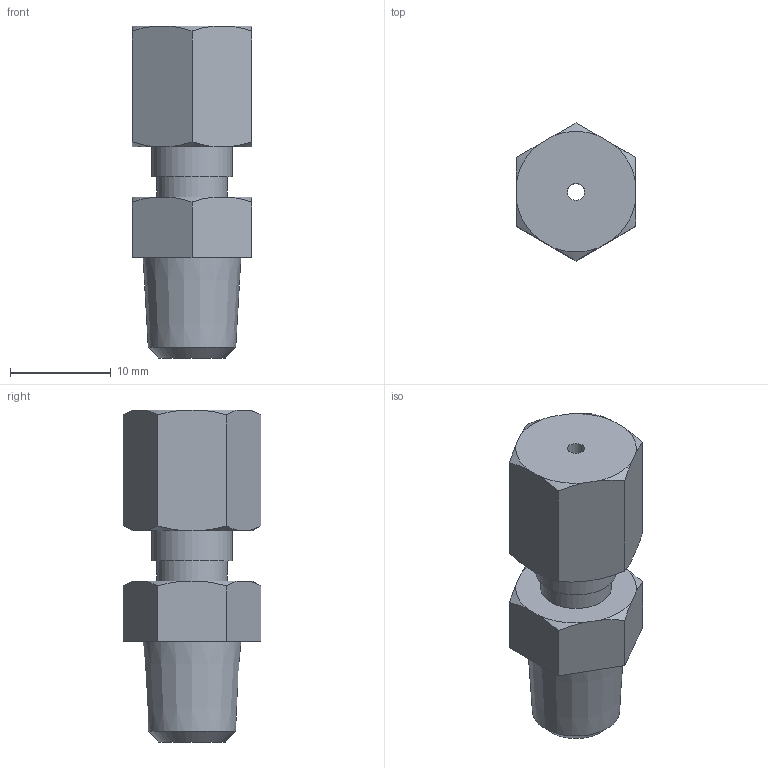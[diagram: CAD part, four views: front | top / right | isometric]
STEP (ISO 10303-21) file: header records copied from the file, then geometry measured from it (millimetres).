
FILE_DESCRIPTION (( 'STEP AP203' ), '1' );
FILE_NAME ('YICF-3(0).STEP', '2025-06-19T07:12:47', ( '' ), ( '' ), 'SwSTEP 2.0', 'SolidWorks 2021', '' );
FILE_SCHEMA (( 'CONFIG_CONTROL_DESIGN' ));
Length unit declared in the file: millimetre
Products named in the file (1): YICF-3(0)
Bounding box: 11.86 x 13.7 x 33 mm (x, y, z)
Volume: 2987.7 mm3; surface area: 1682 mm2
Topology: 1 solids, 1 shells, 41 faces, 107 edges, 72 vertices
Faces by surface type: cone 20, plane 18, cylinder 3
Full cylindrical faces by diameter (mm): 1.7 x1, 7 x1, 8 x1
Entity records: 1389 total; most frequent: CARTESIAN_POINT 378, ORIENTED_EDGE 198, DIRECTION 174, EDGE_CURVE 99, AXIS2_PLACEMENT_3D 69, VERTEX_POINT 69, EDGE_LOOP 52, FACE_OUTER_BOUND 44
